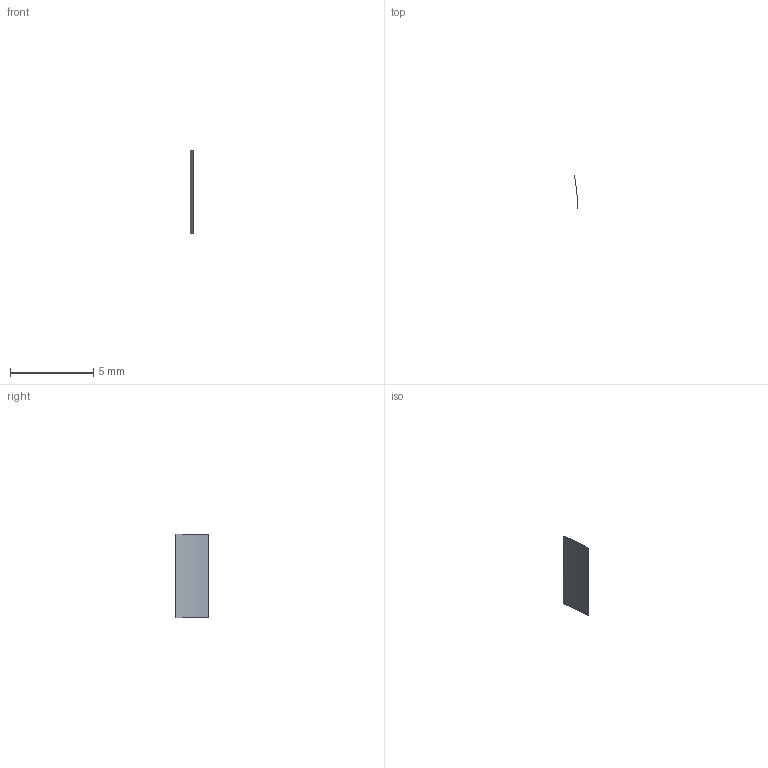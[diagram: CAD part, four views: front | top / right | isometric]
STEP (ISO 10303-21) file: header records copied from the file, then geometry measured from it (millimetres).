
FILE_DESCRIPTION(('BRL-CAD AP214 repeated-vertex periodic lobe fixture'),'2;1');
FILE_NAME('ap214_repeated_vertex_periodic_lobe.stp','2026-08-04T00:00:00',('BRL-CAD'),('BRL-CAD'),'','','');
FILE_SCHEMA(('AUTOMOTIVE_DESIGN { 1 0 10303 214 3 1 1 1 }'));
Length unit declared in the file: millimetre
Products named in the file (1): repeated_vertex_periodic_lobe
Bounding box: 0.2 x 1.99 x 5 mm (x, y, z)
Surface area: 10 mm2 (no closed solid volume)
Topology: 0 solids, 1 shells, 1 faces, 6 edges, 5 vertices
Faces by surface type: cylinder 1
Entity records: 54 total; most frequent: CARTESIAN_POINT 7, EDGE_CURVE 6, ORIENTED_EDGE 6, VERTEX_POINT 5, TRIMMED_CURVE 4, DIRECTION 2, AXIS2_PLACEMENT_3D 2, CIRCLE 2
